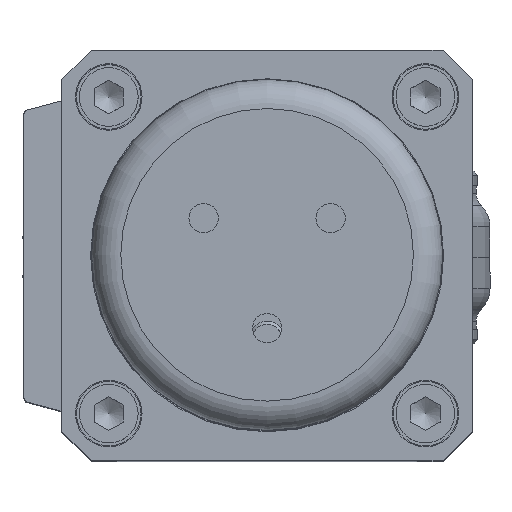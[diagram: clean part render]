
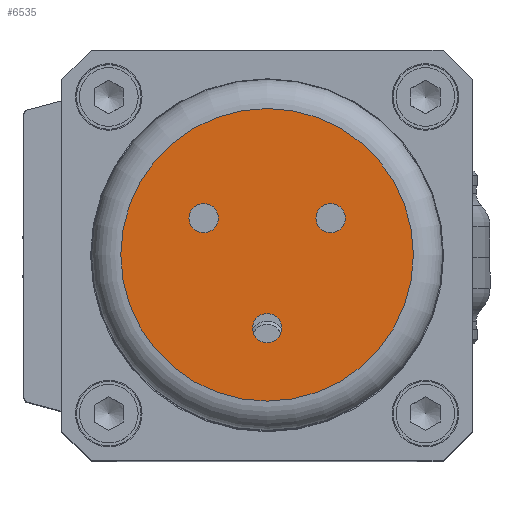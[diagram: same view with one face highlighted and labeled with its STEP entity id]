
A CAD part, top view. The second image highlights one B-rep face of the part: STEP entity #6535.
In plain terms, the highlighted planar face has unit normal (0, 0, 1) as drawn and (1, 0, 0) by its records, which use the part's own axes.
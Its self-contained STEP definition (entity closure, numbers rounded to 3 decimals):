
#6030=PLANE('',#17091);
#6535=ADVANCED_FACE('',(#7865,#7866,#7867,#7868),#6030,.T.);
#7328=CIRCLE('',#17087,2.5);
#7329=CIRCLE('',#17088,2.5);
#7330=CIRCLE('',#17089,2.5);
#7331=CIRCLE('',#17090,24.95);
#7865=FACE_BOUND('',#8516,.T.);
#7866=FACE_BOUND('',#8517,.T.);
#7867=FACE_BOUND('',#8518,.T.);
#7868=FACE_BOUND('',#8519,.T.);
#8516=EDGE_LOOP('',(#11845));
#8517=EDGE_LOOP('',(#11846));
#8518=EDGE_LOOP('',(#11847));
#8519=EDGE_LOOP('',(#11848));
#11845=ORIENTED_EDGE('',*,*,#15623,.F.);
#11846=ORIENTED_EDGE('',*,*,#15624,.F.);
#11847=ORIENTED_EDGE('',*,*,#15625,.F.);
#11848=ORIENTED_EDGE('',*,*,#15626,.T.);
#14384=VERTEX_POINT('',#23415);
#14385=VERTEX_POINT('',#23417);
#14386=VERTEX_POINT('',#23419);
#14387=VERTEX_POINT('',#23421);
#15623=EDGE_CURVE('',#14384,#14384,#7328,.T.);
#15624=EDGE_CURVE('',#14385,#14385,#7329,.T.);
#15625=EDGE_CURVE('',#14386,#14386,#7330,.T.);
#15626=EDGE_CURVE('',#14387,#14387,#7331,.T.);
#17087=AXIS2_PLACEMENT_3D('',#23414,#18818,#18819);
#17088=AXIS2_PLACEMENT_3D('',#23416,#18820,#18821);
#17089=AXIS2_PLACEMENT_3D('',#23418,#18822,#18823);
#17090=AXIS2_PLACEMENT_3D('',#23420,#18824,#18825);
#17091=AXIS2_PLACEMENT_3D('',#23422,#18826,#18827);
#18818=DIRECTION('',(1.,0.,0.));
#18819=DIRECTION('',(0.,0.,-1.));
#18820=DIRECTION('',(1.,0.,0.));
#18821=DIRECTION('',(0.,-0.866,0.5));
#18822=DIRECTION('',(1.,0.,0.));
#18823=DIRECTION('',(0.,0.866,0.5));
#18824=DIRECTION('',(1.,0.,0.));
#18825=DIRECTION('',(0.,0.,-1.));
#18826=DIRECTION('',(1.,0.,0.));
#18827=DIRECTION('',(0.,0.,-1.));
#23414=CARTESIAN_POINT('',(57.25,12.5,0.));
#23415=CARTESIAN_POINT('',(57.25,12.5,-2.5));
#23416=CARTESIAN_POINT('',(57.25,-6.25,-10.825));
#23417=CARTESIAN_POINT('',(57.25,-8.415,-9.575));
#23418=CARTESIAN_POINT('',(57.25,-6.25,10.825));
#23419=CARTESIAN_POINT('',(57.25,-4.085,12.075));
#23420=CARTESIAN_POINT('',(57.25,0.,0.));
#23421=CARTESIAN_POINT('',(57.25,0.,-24.95));
#23422=CARTESIAN_POINT('',(57.25,29.95,0.));
